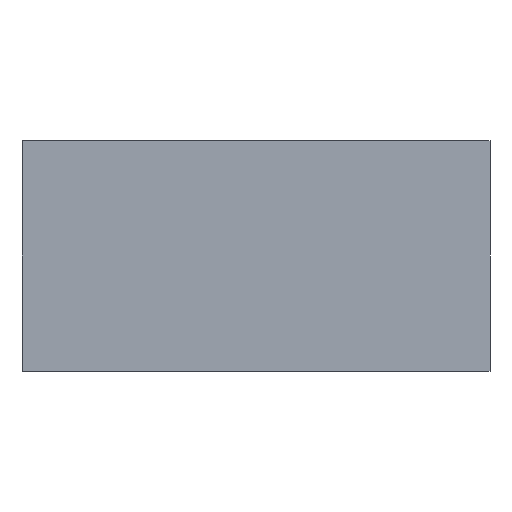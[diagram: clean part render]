
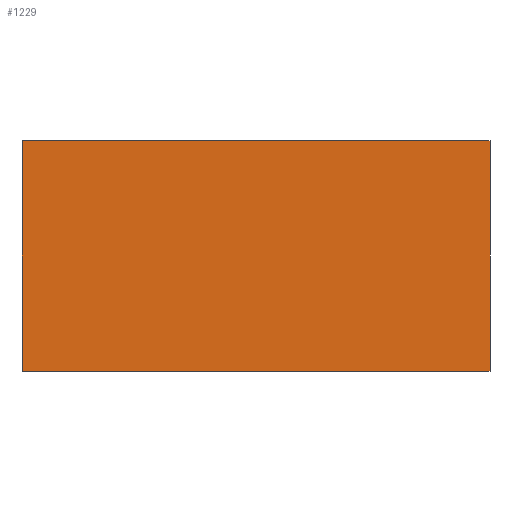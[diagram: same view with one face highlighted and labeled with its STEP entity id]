
A CAD part, left-side view. The second image highlights one B-rep face of the part: STEP entity #1229.
In plain terms, the highlighted planar face has unit normal (-1, 0, 0).
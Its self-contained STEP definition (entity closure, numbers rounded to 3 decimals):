
#181 = PLANE('',#182);
#182 = AXIS2_PLACEMENT_3D('',#183,#184,#185);
#183 = CARTESIAN_POINT('',(0.,0.,21.111));
#184 = DIRECTION('',(0.,0.,1.));
#185 = DIRECTION('',(1.,0.,-0.));
#346 = PLANE('',#347);
#347 = AXIS2_PLACEMENT_3D('',#348,#349,#350);
#348 = CARTESIAN_POINT('',(0.,0.,0.));
#349 = DIRECTION('',(0.,0.,1.));
#350 = DIRECTION('',(1.,0.,-0.));
#372 = PLANE('',#373);
#373 = AXIS2_PLACEMENT_3D('',#374,#375,#376);
#374 = CARTESIAN_POINT('',(0.,42.827,0.));
#375 = DIRECTION('',(-0.,1.,0.));
#376 = DIRECTION('',(0.,0.,1.));
#396 = VERTEX_POINT('',#397);
#397 = CARTESIAN_POINT('',(0.,42.827,21.111));
#418 = EDGE_CURVE('',#419,#396,#421,.T.);
#419 = VERTEX_POINT('',#420);
#420 = CARTESIAN_POINT('',(0.,0.,21.111));
#421 = SURFACE_CURVE('',#422,(#426,#433),.PCURVE_S1.);
#422 = LINE('',#423,#424);
#423 = CARTESIAN_POINT('',(0.,0.,21.111));
#424 = VECTOR('',#425,1.);
#425 = DIRECTION('',(-0.,1.,0.));
#426 = PCURVE('',#181,#427);
#427 = DEFINITIONAL_REPRESENTATION('',(#428),#432);
#428 = LINE('',#429,#430);
#429 = CARTESIAN_POINT('',(0.,0.));
#430 = VECTOR('',#431,1.);
#431 = DIRECTION('',(0.,1.));
#432 = ( GEOMETRIC_REPRESENTATION_CONTEXT(2) 
PARAMETRIC_REPRESENTATION_CONTEXT() REPRESENTATION_CONTEXT('2D SPACE',''
  ) );
#433 = PCURVE('',#434,#439);
#434 = PLANE('',#435);
#435 = AXIS2_PLACEMENT_3D('',#436,#437,#438);
#436 = CARTESIAN_POINT('',(0.,0.,0.));
#437 = DIRECTION('',(1.,0.,-0.));
#438 = DIRECTION('',(0.,0.,1.));
#439 = DEFINITIONAL_REPRESENTATION('',(#440),#444);
#440 = LINE('',#441,#442);
#441 = CARTESIAN_POINT('',(21.111,0.));
#442 = VECTOR('',#443,1.);
#443 = DIRECTION('',(0.,-1.));
#444 = ( GEOMETRIC_REPRESENTATION_CONTEXT(2) 
PARAMETRIC_REPRESENTATION_CONTEXT() REPRESENTATION_CONTEXT('2D SPACE',''
  ) );
#462 = PLANE('',#463);
#463 = AXIS2_PLACEMENT_3D('',#464,#465,#466);
#464 = CARTESIAN_POINT('',(0.,0.,0.));
#465 = DIRECTION('',(-0.,1.,0.));
#466 = DIRECTION('',(0.,0.,1.));
#795 = VERTEX_POINT('',#796);
#796 = CARTESIAN_POINT('',(0.,42.827,0.));
#817 = EDGE_CURVE('',#795,#396,#818,.T.);
#818 = SURFACE_CURVE('',#819,(#823,#830),.PCURVE_S1.);
#819 = LINE('',#820,#821);
#820 = CARTESIAN_POINT('',(0.,42.827,0.));
#821 = VECTOR('',#822,1.);
#822 = DIRECTION('',(0.,0.,1.));
#823 = PCURVE('',#372,#824);
#824 = DEFINITIONAL_REPRESENTATION('',(#825),#829);
#825 = LINE('',#826,#827);
#826 = CARTESIAN_POINT('',(0.,0.));
#827 = VECTOR('',#828,1.);
#828 = DIRECTION('',(1.,0.));
#829 = ( GEOMETRIC_REPRESENTATION_CONTEXT(2) 
PARAMETRIC_REPRESENTATION_CONTEXT() REPRESENTATION_CONTEXT('2D SPACE',''
  ) );
#830 = PCURVE('',#434,#831);
#831 = DEFINITIONAL_REPRESENTATION('',(#832),#836);
#832 = LINE('',#833,#834);
#833 = CARTESIAN_POINT('',(0.,-42.827));
#834 = VECTOR('',#835,1.);
#835 = DIRECTION('',(1.,0.));
#836 = ( GEOMETRIC_REPRESENTATION_CONTEXT(2) 
PARAMETRIC_REPRESENTATION_CONTEXT() REPRESENTATION_CONTEXT('2D SPACE',''
  ) );
#930 = EDGE_CURVE('',#931,#795,#933,.T.);
#931 = VERTEX_POINT('',#932);
#932 = CARTESIAN_POINT('',(0.,0.,0.));
#933 = SURFACE_CURVE('',#934,(#938,#945),.PCURVE_S1.);
#934 = LINE('',#935,#936);
#935 = CARTESIAN_POINT('',(0.,0.,0.));
#936 = VECTOR('',#937,1.);
#937 = DIRECTION('',(-0.,1.,0.));
#938 = PCURVE('',#346,#939);
#939 = DEFINITIONAL_REPRESENTATION('',(#940),#944);
#940 = LINE('',#941,#942);
#941 = CARTESIAN_POINT('',(0.,0.));
#942 = VECTOR('',#943,1.);
#943 = DIRECTION('',(0.,1.));
#944 = ( GEOMETRIC_REPRESENTATION_CONTEXT(2) 
PARAMETRIC_REPRESENTATION_CONTEXT() REPRESENTATION_CONTEXT('2D SPACE',''
  ) );
#945 = PCURVE('',#434,#946);
#946 = DEFINITIONAL_REPRESENTATION('',(#947),#951);
#947 = LINE('',#948,#949);
#948 = CARTESIAN_POINT('',(0.,0.));
#949 = VECTOR('',#950,1.);
#950 = DIRECTION('',(0.,-1.));
#951 = ( GEOMETRIC_REPRESENTATION_CONTEXT(2) 
PARAMETRIC_REPRESENTATION_CONTEXT() REPRESENTATION_CONTEXT('2D SPACE',''
  ) );
#1229 = ADVANCED_FACE('f012',(#1230),#434,.F.);
#1230 = FACE_BOUND('',#1231,.F.);
#1231 = EDGE_LOOP('',(#1232,#1253,#1254,#1255));
#1232 = ORIENTED_EDGE('',*,*,#1233,.F.);
#1233 = EDGE_CURVE('',#931,#419,#1234,.T.);
#1234 = SURFACE_CURVE('',#1235,(#1239,#1246),.PCURVE_S1.);
#1235 = LINE('',#1236,#1237);
#1236 = CARTESIAN_POINT('',(0.,0.,0.));
#1237 = VECTOR('',#1238,1.);
#1238 = DIRECTION('',(0.,0.,1.));
#1239 = PCURVE('',#434,#1240);
#1240 = DEFINITIONAL_REPRESENTATION('',(#1241),#1245);
#1241 = LINE('',#1242,#1243);
#1242 = CARTESIAN_POINT('',(0.,0.));
#1243 = VECTOR('',#1244,1.);
#1244 = DIRECTION('',(1.,0.));
#1245 = ( GEOMETRIC_REPRESENTATION_CONTEXT(2) 
PARAMETRIC_REPRESENTATION_CONTEXT() REPRESENTATION_CONTEXT('2D SPACE',''
  ) );
#1246 = PCURVE('',#462,#1247);
#1247 = DEFINITIONAL_REPRESENTATION('',(#1248),#1252);
#1248 = LINE('',#1249,#1250);
#1249 = CARTESIAN_POINT('',(0.,0.));
#1250 = VECTOR('',#1251,1.);
#1251 = DIRECTION('',(1.,0.));
#1252 = ( GEOMETRIC_REPRESENTATION_CONTEXT(2) 
PARAMETRIC_REPRESENTATION_CONTEXT() REPRESENTATION_CONTEXT('2D SPACE',''
  ) );
#1253 = ORIENTED_EDGE('',*,*,#930,.T.);
#1254 = ORIENTED_EDGE('',*,*,#817,.T.);
#1255 = ORIENTED_EDGE('',*,*,#418,.F.);
